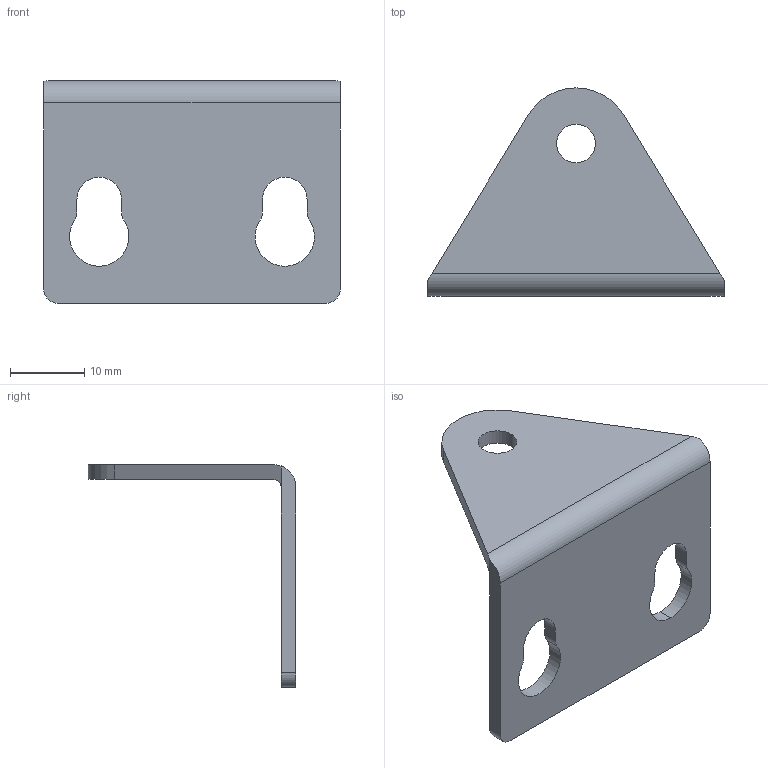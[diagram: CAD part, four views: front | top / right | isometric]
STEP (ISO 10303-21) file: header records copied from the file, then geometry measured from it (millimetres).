
FILE_DESCRIPTION (( 'STEP AP203' ), '1' );
FILE_NAME ('DML0640-L.STEP', '2022-05-26T09:35:43', ( '' ), ( '' ), 'SwSTEP 2.0', 'SolidWorks 2017', '' );
FILE_SCHEMA (( 'CONFIG_CONTROL_DESIGN' ));
Length unit declared in the file: millimetre
Products named in the file (1): DML0640-L
Bounding box: 40 x 28 x 30 mm (x, y, z)
Volume: 3241.7 mm3; surface area: 3732.6 mm2
Topology: 1 solids, 1 shells, 30 faces, 82 edges, 54 vertices
Faces by surface type: cylinder 17, plane 13
Entity records: 1051 total; most frequent: CARTESIAN_POINT 179, DIRECTION 172, ORIENTED_EDGE 164, EDGE_CURVE 82, AXIS2_PLACEMENT_3D 63, VERTEX_POINT 54, VECTOR 46, LINE 46
